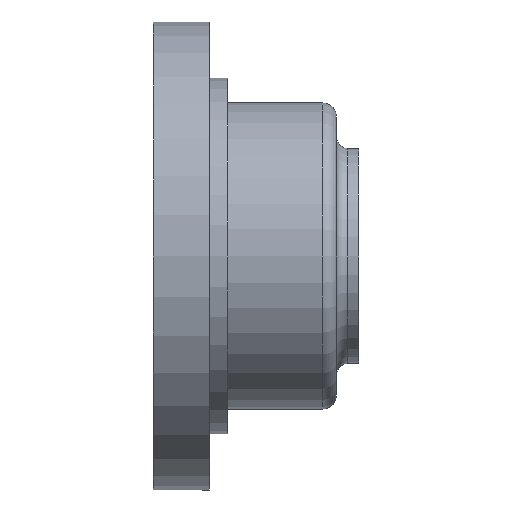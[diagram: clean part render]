
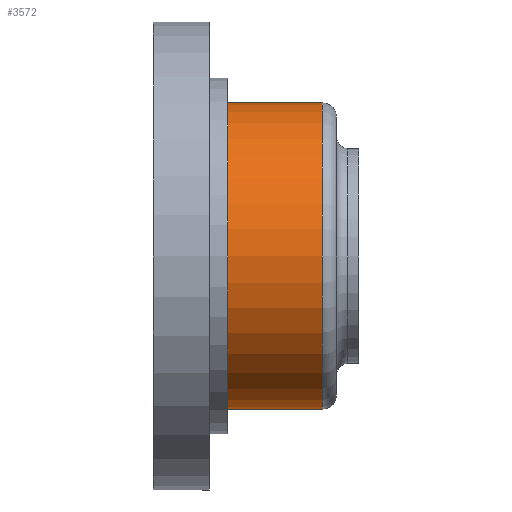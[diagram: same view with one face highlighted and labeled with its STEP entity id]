
A CAD part, front view. The second image highlights one B-rep face of the part: STEP entity #3572.
In plain terms, the highlighted cylindrical face has radius 16.35 mm (diameter 32.7 mm), a partial arc.
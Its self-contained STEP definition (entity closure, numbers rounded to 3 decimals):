
#180 = LINE ( 'NONE', #3976, #8497 ) ;
#200 = EDGE_CURVE ( 'NONE', #1667, #8136, #2582, .T. ) ;
#546 = DIRECTION ( 'NONE',  ( -1., 0., 0. ) ) ;
#557 = DIRECTION ( 'NONE',  ( -1., 0., 0. ) ) ;
#1631 = CARTESIAN_POINT ( 'NONE',  ( 17.896, 0., -16.35 ) ) ;
#1667 = VERTEX_POINT ( 'NONE', #1631 ) ;
#1828 = CARTESIAN_POINT ( 'NONE',  ( 0., 0., 0. ) ) ;
#2063 = CARTESIAN_POINT ( 'NONE',  ( 35.996, 0., 16.35 ) ) ;
#2582 = CIRCLE ( 'NONE', #7023, 16.35 ) ;
#3119 = CARTESIAN_POINT ( 'NONE',  ( 35.996, 0., -16.35 ) ) ;
#3192 = CYLINDRICAL_SURFACE ( 'NONE', #3221, 16.35 ) ;
#3221 = AXIS2_PLACEMENT_3D ( 'NONE', #1828, #546, #5112 ) ;
#3283 = DIRECTION ( 'NONE',  ( 0., 0., 1. ) ) ;
#3383 = DIRECTION ( 'NONE',  ( -1., 0., 0. ) ) ;
#3572 = ADVANCED_FACE ( 'NONE', ( #3702 ), #3192, .T. ) ;
#3660 = EDGE_LOOP ( 'NONE', ( #6080, #7356, #4891, #6687 ) ) ;
#3702 = FACE_OUTER_BOUND ( 'NONE', #3660, .T. ) ;
#3716 = EDGE_CURVE ( 'NONE', #4515, #8136, #180, .T. ) ;
#3717 = CARTESIAN_POINT ( 'NONE',  ( 0., 0., -16.35 ) ) ;
#3976 = CARTESIAN_POINT ( 'NONE',  ( 0., 0., 16.35 ) ) ;
#4515 = VERTEX_POINT ( 'NONE', #2063 ) ;
#4529 = CARTESIAN_POINT ( 'NONE',  ( 35.996, 0., 0. ) ) ;
#4888 = EDGE_CURVE ( 'NONE', #5964, #4515, #5299, .T. ) ;
#4891 = ORIENTED_EDGE ( 'NONE', *, *, #3716, .T. ) ;
#4963 = DIRECTION ( 'NONE',  ( -1., 0., 0. ) ) ;
#5046 = CARTESIAN_POINT ( 'NONE',  ( 17.896, 0., 16.35 ) ) ;
#5112 = DIRECTION ( 'NONE',  ( 0., 0., 1. ) ) ;
#5254 = DIRECTION ( 'NONE',  ( -1., 0., 0. ) ) ;
#5299 = CIRCLE ( 'NONE', #8414, 16.35 ) ;
#5916 = DIRECTION ( 'NONE',  ( 0., 0., 1. ) ) ;
#5964 = VERTEX_POINT ( 'NONE', #3119 ) ;
#6080 = ORIENTED_EDGE ( 'NONE', *, *, #6485, .F. ) ;
#6416 = VECTOR ( 'NONE', #4963, 1000. ) ;
#6485 = EDGE_CURVE ( 'NONE', #5964, #1667, #8367, .T. ) ;
#6687 = ORIENTED_EDGE ( 'NONE', *, *, #200, .F. ) ;
#7023 = AXIS2_PLACEMENT_3D ( 'NONE', #7291, #3383, #5916 ) ;
#7291 = CARTESIAN_POINT ( 'NONE',  ( 17.896, 0., 0. ) ) ;
#7356 = ORIENTED_EDGE ( 'NONE', *, *, #4888, .T. ) ;
#8136 = VERTEX_POINT ( 'NONE', #5046 ) ;
#8367 = LINE ( 'NONE', #3717, #6416 ) ;
#8414 = AXIS2_PLACEMENT_3D ( 'NONE', #4529, #557, #3283 ) ;
#8497 = VECTOR ( 'NONE', #5254, 1000. ) ;
